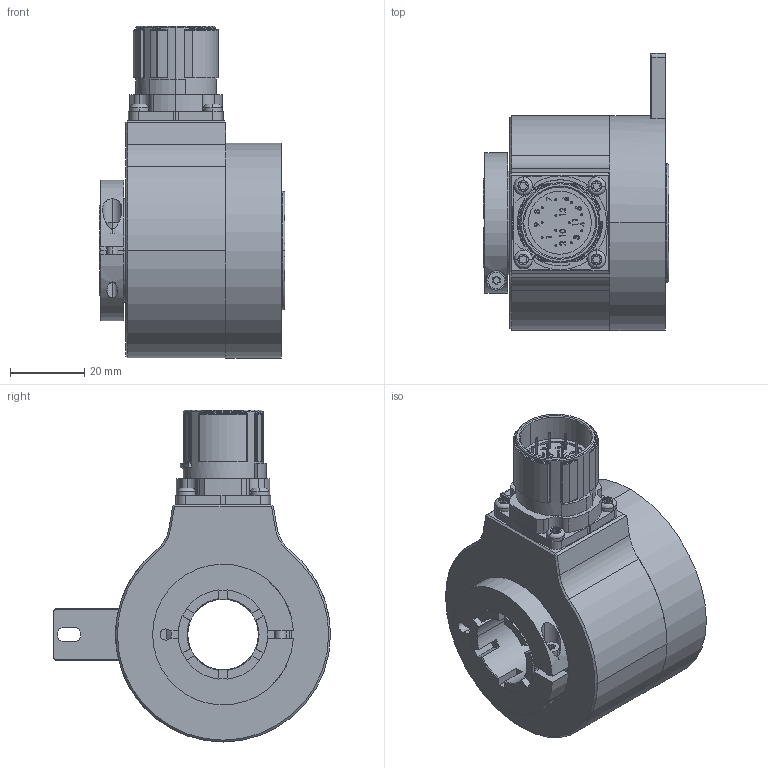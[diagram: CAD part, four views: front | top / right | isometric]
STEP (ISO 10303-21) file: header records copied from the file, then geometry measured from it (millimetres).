
FILE_DESCRIPTION (( 'STEP AP203' ), '1' );
FILE_NAME ('K58I.OXX.XXXXX.XC1755A.XXRC4.step', '2025-12-03T08:06:10', ( '' ), ( '' ), 'SwSTEP 2.0', 'SolidWorks 2021', '' );
FILE_SCHEMA (( 'CONFIG_CONTROL_DESIGN' ));
Length unit declared in the file: millimetre
Products named in the file (1): K58I.OXX.XXXXX.XC1755A.XXRC4
Bounding box: 50.1 x 74.75 x 89.6 mm (x, y, z)
Volume: 120105.9 mm3; surface area: 41014.5 mm2
Topology: 7 solids, 7 shells, 711 faces, 1844 edges, 1172 vertices
Faces by surface type: cylinder 266, plane 254, bspline 96, cone 49, sphere 34, torus 12
Entity records: 27535 total; most frequent: CARTESIAN_POINT 10436, ORIENTED_EDGE 3604, DIRECTION 3467, EDGE_CURVE 1802, AXIS2_PLACEMENT_3D 1278, VERTEX_POINT 1169, VECTOR 911, LINE 911
